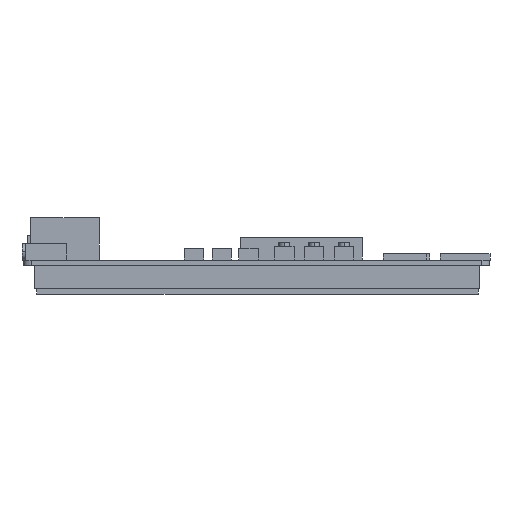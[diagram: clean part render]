
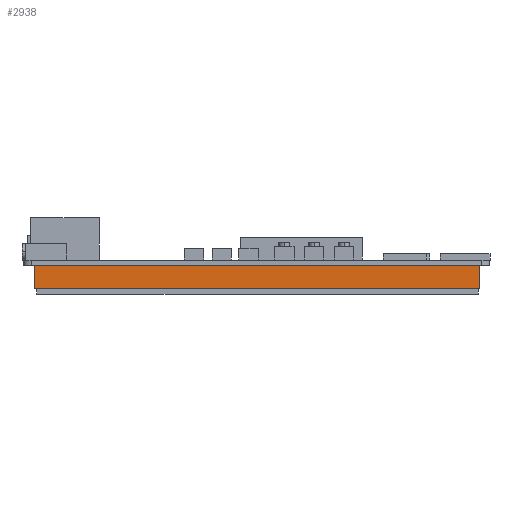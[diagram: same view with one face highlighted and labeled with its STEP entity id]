
A CAD part, left-side view. The second image highlights one B-rep face of the part: STEP entity #2938.
In plain terms, the highlighted planar face has unit normal (-1, 0, 0).
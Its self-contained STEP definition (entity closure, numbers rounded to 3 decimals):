
#547=DIRECTION('',(0.,1.,0.));
#548=VECTOR('',#547,142.);
#549=CARTESIAN_POINT('',(-92.205,-70.67,-1.6));
#550=LINE('',#549,#548);
#859=DIRECTION('',(0.,0.,-1.));
#860=VECTOR('',#859,7.5);
#861=CARTESIAN_POINT('',(-92.205,-70.67,-1.6));
#862=LINE('',#861,#860);
#871=DIRECTION('',(0.,0.,-1.));
#872=VECTOR('',#871,7.5);
#873=CARTESIAN_POINT('',(-92.205,71.33,-1.6));
#874=LINE('',#873,#872);
#875=DIRECTION('',(0.,1.,0.));
#876=VECTOR('',#875,142.);
#877=CARTESIAN_POINT('',(-92.205,-70.67,-9.1));
#878=LINE('',#877,#876);
#1529=CARTESIAN_POINT('',(-92.205,-70.67,-9.1));
#1530=CARTESIAN_POINT('',(-92.205,71.33,-9.1));
#1531=VERTEX_POINT('',#1529);
#1532=VERTEX_POINT('',#1530);
#1537=CARTESIAN_POINT('',(-92.205,-70.67,-1.6));
#1538=CARTESIAN_POINT('',(-92.205,71.33,-1.6));
#1539=VERTEX_POINT('',#1537);
#1540=VERTEX_POINT('',#1538);
#2924=CARTESIAN_POINT('',(-92.205,-70.67,-1.6));
#2925=DIRECTION('',(-1.,0.,0.));
#2926=DIRECTION('',(0.,1.,0.));
#2927=AXIS2_PLACEMENT_3D('',#2924,#2925,#2926);
#2928=PLANE('',#2927);
#2929=ORIENTED_EDGE('',*,*,#2214,.F.);
#2931=ORIENTED_EDGE('',*,*,#2930,.T.);
#2933=ORIENTED_EDGE('',*,*,#2932,.T.);
#2935=ORIENTED_EDGE('',*,*,#2934,.F.);
#2936=EDGE_LOOP('',(#2929,#2931,#2933,#2935));
#2937=FACE_OUTER_BOUND('',#2936,.F.);
#2214=EDGE_CURVE('',#1539,#1540,#550,.T.);
#2930=EDGE_CURVE('',#1539,#1531,#862,.T.);
#2932=EDGE_CURVE('',#1531,#1532,#878,.T.);
#2934=EDGE_CURVE('',#1540,#1532,#874,.T.);
#2938=ADVANCED_FACE('',(#2937),#2928,.T.);
